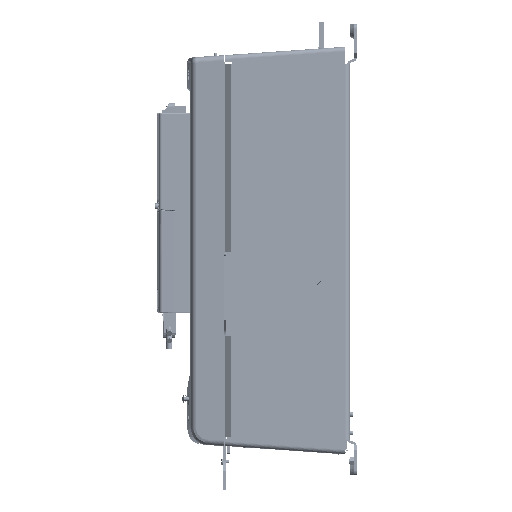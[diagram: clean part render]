
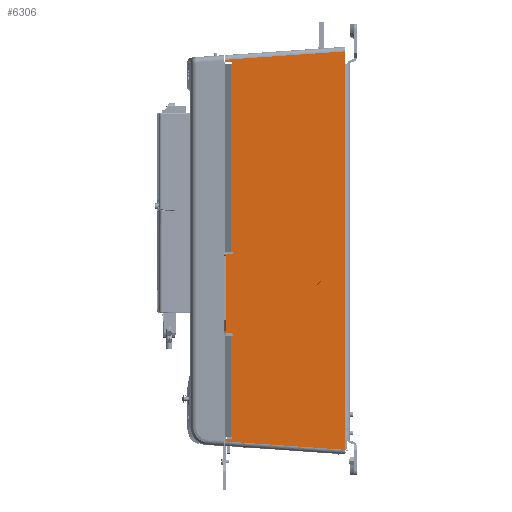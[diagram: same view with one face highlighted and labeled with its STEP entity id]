
A CAD part, left-side view. The second image highlights one B-rep face of the part: STEP entity #6306.
In plain terms, the highlighted planar face has unit normal (-1, 0, 0) as drawn and (1, 0, 0) by its records, which use the part's own axes.
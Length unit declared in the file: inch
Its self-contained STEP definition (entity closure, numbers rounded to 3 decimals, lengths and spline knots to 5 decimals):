
#1098=DIRECTION('',(0.,0.,1.));
#1099=VECTOR('',#1098,20.18);
#1100=CARTESIAN_POINT('',(5.382,-0.255,-10.011));
#1101=LINE('',#1100,#1099);
#1116=CARTESIAN_POINT('',(5.382,-6.33137,-4.36883));
#1117=DIRECTION('',(-1.,0.,0.));
#1118=DIRECTION('',(0.,0.,1.));
#1119=AXIS2_PLACEMENT_3D('',#1116,#1117,#1118);
#1121=DIRECTION('',(0.,1.,0.));
#1122=VECTOR('',#1121,0.345);
#1123=CARTESIAN_POINT('',(5.382,-6.67637,-4.30683));
#1124=LINE('',#1123,#1122);
#1125=DIRECTION('',(0.,0.,-1.));
#1126=VECTOR('',#1125,4.252);
#1127=CARTESIAN_POINT('',(5.382,-6.67637,-0.05483));
#1128=LINE('',#1127,#1126);
#1129=DIRECTION('',(0.,-1.,0.));
#1130=VECTOR('',#1129,0.345);
#1131=CARTESIAN_POINT('',(5.382,-6.33137,-0.05483));
#1132=LINE('',#1131,#1130);
#1133=CARTESIAN_POINT('',(5.382,-6.33137,0.00717));
#1134=DIRECTION('',(-1.,0.,0.));
#1135=DIRECTION('',(0.,0.,1.));
#1136=AXIS2_PLACEMENT_3D('',#1133,#1134,#1135);
#1138=DIRECTION('',(0.,1.,0.));
#1139=VECTOR('',#1138,0.04315);
#1140=CARTESIAN_POINT('',(5.382,-6.37452,0.06917));
#1141=LINE('',#1140,#1139);
#1142=DIRECTION('',(0.,0.,-1.));
#1143=VECTOR('',#1142,10.07225);
#1144=CARTESIAN_POINT('',(5.382,-6.37452,10.14142));
#1145=LINE('',#1144,#1143);
#1146=CARTESIAN_POINT('',(5.382,-6.37452,10.20342));
#1147=DIRECTION('',(1.,0.,0.));
#1148=DIRECTION('',(0.,0.,-1.));
#1149=AXIS2_PLACEMENT_3D('',#1146,#1147,#1148);
#1151=DIRECTION('',(0.,1.,0.));
#1152=VECTOR('',#1151,0.30548);
#1153=CARTESIAN_POINT('',(5.382,-6.68,10.26542));
#1154=LINE('',#1153,#1152);
#1155=DIRECTION('',(0.,0.,1.));
#1156=VECTOR('',#1155,0.67169);
#1157=CARTESIAN_POINT('',(5.382,-0.255,10.169));
#1158=LINE('',#1157,#1156);
#1159=DIRECTION('',(0.,0.,1.));
#1160=VECTOR('',#1159,0.54911);
#1161=CARTESIAN_POINT('',(5.382,-0.255,-10.56011));
#1162=LINE('',#1161,#1160);
#1163=DIRECTION('',(0.,1.,0.));
#1164=VECTOR('',#1163,0.30548);
#1165=CARTESIAN_POINT('',(5.382,-6.68,-9.98759));
#1166=LINE('',#1165,#1164);
#1167=CARTESIAN_POINT('',(5.382,-6.37452,-9.92509));
#1168=DIRECTION('',(1.,0.,0.));
#1169=DIRECTION('',(0.,0.,-1.));
#1170=AXIS2_PLACEMENT_3D('',#1167,#1168,#1169);
#1172=DIRECTION('',(0.,0.,-1.));
#1173=VECTOR('',#1172,5.43175);
#1174=CARTESIAN_POINT('',(5.382,-6.37452,-4.43083));
#1175=LINE('',#1174,#1173);
#1176=DIRECTION('',(0.,1.,0.));
#1177=VECTOR('',#1176,0.04315);
#1178=CARTESIAN_POINT('',(5.382,-6.37452,-4.43083));
#1179=LINE('',#1178,#1177);
#2089=DIRECTION('',(0.,0.,-1.));
#2090=VECTOR('',#2089,0.12325);
#2091=CARTESIAN_POINT('',(5.382,-6.68,-9.98759));
#2092=LINE('',#2091,#2090);
#2118=DIRECTION('',(0.,-0.998,0.07));
#2119=VECTOR('',#2118,6.44069);
#2120=CARTESIAN_POINT('',(5.382,-0.255,-10.56011));
#2121=LINE('',#2120,#2119);
#3651=DIRECTION('',(0.,0.998,0.07));
#3652=VECTOR('',#3651,6.44069);
#3653=CARTESIAN_POINT('',(5.382,-6.68,10.39142));
#3654=LINE('',#3653,#3652);
#3688=DIRECTION('',(0.,0.,-1.));
#3689=VECTOR('',#3688,0.126);
#3690=CARTESIAN_POINT('',(5.382,-6.68,10.39142));
#3691=LINE('',#3690,#3689);
#3984=CARTESIAN_POINT('',(5.382,-0.255,10.169));
#3985=VERTEX_POINT('',#3984);
#3986=CARTESIAN_POINT('',(5.382,-0.255,-10.011));
#3987=VERTEX_POINT('',#3986);
#4004=CARTESIAN_POINT('',(5.382,-0.255,10.84069));
#4005=VERTEX_POINT('',#4004);
#4030=CARTESIAN_POINT('',(5.382,-6.68,10.39142));
#4031=VERTEX_POINT('',#4030);
#4042=CARTESIAN_POINT('',(5.382,-0.255,-10.56011));
#4043=VERTEX_POINT('',#4042);
#4070=CARTESIAN_POINT('',(5.382,-6.68,-10.11083));
#4071=VERTEX_POINT('',#4070);
#4406=CARTESIAN_POINT('',(5.382,-6.37452,-9.86259));
#4407=VERTEX_POINT('',#4406);
#4409=CARTESIAN_POINT('',(5.382,-6.37452,10.14142));
#4411=VERTEX_POINT('',#4409);
#4442=CARTESIAN_POINT('',(5.382,-6.68,10.26542));
#4443=CARTESIAN_POINT('',(5.382,-6.37452,10.26542));
#4444=VERTEX_POINT('',#4442);
#4445=VERTEX_POINT('',#4443);
#4446=CARTESIAN_POINT('',(5.382,-6.37452,-9.98759));
#4447=VERTEX_POINT('',#4446);
#4448=CARTESIAN_POINT('',(5.382,-6.68,-9.98759));
#4449=VERTEX_POINT('',#4448);
#4474=CARTESIAN_POINT('',(5.382,-6.33137,-0.05483));
#4475=CARTESIAN_POINT('',(5.382,-6.67637,-0.05483));
#4476=VERTEX_POINT('',#4474);
#4477=VERTEX_POINT('',#4475);
#4478=CARTESIAN_POINT('',(5.382,-6.67637,-4.30683));
#4479=VERTEX_POINT('',#4478);
#4480=CARTESIAN_POINT('',(5.382,-6.33137,-4.30683));
#4481=VERTEX_POINT('',#4480);
#4490=CARTESIAN_POINT('',(5.382,-6.33137,-4.43083));
#4491=VERTEX_POINT('',#4490);
#4494=CARTESIAN_POINT('',(5.382,-6.33137,0.06917));
#4495=VERTEX_POINT('',#4494);
#4510=CARTESIAN_POINT('',(5.382,-6.37452,0.06917));
#4511=VERTEX_POINT('',#4510);
#4512=CARTESIAN_POINT('',(5.382,-6.37452,-4.43083));
#4513=VERTEX_POINT('',#4512);
#6264=CARTESIAN_POINT('',(5.382,0.,10.169));
#6265=DIRECTION('',(1.,0.,0.));
#6266=DIRECTION('',(0.,0.,1.));
#6267=AXIS2_PLACEMENT_3D('',#6264,#6265,#6266);
#6268=PLANE('',#6267);
#6269=ORIENTED_EDGE('',*,*,#5219,.F.);
#6271=ORIENTED_EDGE('',*,*,#6270,.F.);
#6273=ORIENTED_EDGE('',*,*,#6272,.F.);
#6275=ORIENTED_EDGE('',*,*,#6274,.F.);
#6276=ORIENTED_EDGE('',*,*,#5142,.F.);
#6278=ORIENTED_EDGE('',*,*,#6277,.F.);
#6280=ORIENTED_EDGE('',*,*,#6279,.F.);
#6282=ORIENTED_EDGE('',*,*,#6281,.T.);
#6283=ORIENTED_EDGE('',*,*,#5439,.F.);
#6285=ORIENTED_EDGE('',*,*,#6284,.F.);
#6287=ORIENTED_EDGE('',*,*,#6286,.T.);
#6289=ORIENTED_EDGE('',*,*,#6288,.F.);
#6290=ORIENTED_EDGE('',*,*,#6255,.F.);
#6292=ORIENTED_EDGE('',*,*,#6291,.F.);
#6294=ORIENTED_EDGE('',*,*,#6293,.T.);
#6296=ORIENTED_EDGE('',*,*,#6295,.F.);
#6298=ORIENTED_EDGE('',*,*,#6297,.T.);
#6300=ORIENTED_EDGE('',*,*,#6299,.T.);
#6302=ORIENTED_EDGE('',*,*,#6301,.F.);
#6303=ORIENTED_EDGE('',*,*,#5258,.T.);
#6304=EDGE_LOOP('',(#6269,#6271,#6273,#6275,#6276,#6278,#6280,#6282,#6283,#6285,
#6287,#6289,#6290,#6292,#6294,#6296,#6298,#6300,#6302,#6303));
#6305=FACE_OUTER_BOUND('',#6304,.F.);
#6306=ADVANCED_FACE('',(#6305),#6268,.T.);
#1120=CIRCLE('',#1119,0.062);
#1137=CIRCLE('',#1136,0.062);
#1150=CIRCLE('',#1149,0.062);
#1171=CIRCLE('',#1170,0.0625);
#5142=EDGE_CURVE('',#4495,#4476,#1137,.T.);
#5219=EDGE_CURVE('',#4481,#4491,#1120,.T.);
#5258=EDGE_CURVE('',#4513,#4491,#1179,.T.);
#5439=EDGE_CURVE('',#4444,#4445,#1154,.T.);
#6255=EDGE_CURVE('',#3987,#3985,#1101,.T.);
#6270=EDGE_CURVE('',#4479,#4481,#1124,.T.);
#6272=EDGE_CURVE('',#4477,#4479,#1128,.T.);
#6274=EDGE_CURVE('',#4476,#4477,#1132,.T.);
#6277=EDGE_CURVE('',#4511,#4495,#1141,.T.);
#6279=EDGE_CURVE('',#4411,#4511,#1145,.T.);
#6281=EDGE_CURVE('',#4411,#4445,#1150,.T.);
#6284=EDGE_CURVE('',#4031,#4444,#3691,.T.);
#6286=EDGE_CURVE('',#4031,#4005,#3654,.T.);
#6288=EDGE_CURVE('',#3985,#4005,#1158,.T.);
#6291=EDGE_CURVE('',#4043,#3987,#1162,.T.);
#6293=EDGE_CURVE('',#4043,#4071,#2121,.T.);
#6295=EDGE_CURVE('',#4449,#4071,#2092,.T.);
#6297=EDGE_CURVE('',#4449,#4447,#1166,.T.);
#6299=EDGE_CURVE('',#4447,#4407,#1171,.T.);
#6301=EDGE_CURVE('',#4513,#4407,#1175,.T.);
